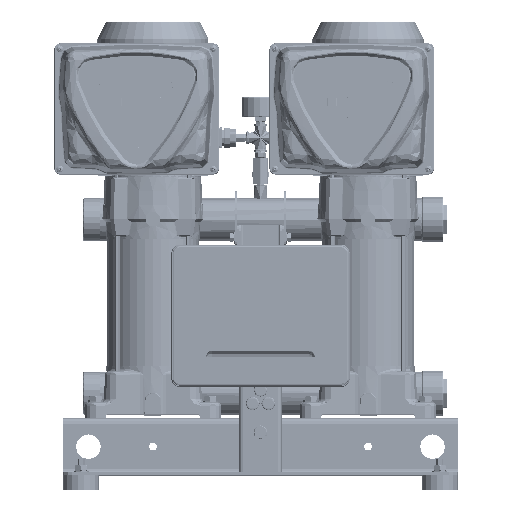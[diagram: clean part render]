
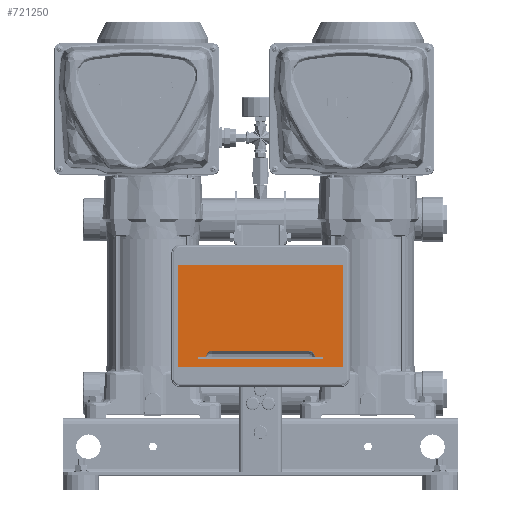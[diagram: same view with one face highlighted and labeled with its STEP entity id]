
A CAD part, top view. The second image highlights one B-rep face of the part: STEP entity #721250.
In plain terms, the highlighted planar face has unit normal (0, 0, 1).
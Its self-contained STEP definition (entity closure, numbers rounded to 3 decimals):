
#717857=DIRECTION('',(1.,0.,0.));
#717858=VECTOR('',#717857,231.);
#717859=CARTESIAN_POINT('',(-115.5,-71.5,112.5));
#717860=LINE('',#717859,#717858);
#717864=DIRECTION('',(0.,-1.,0.));
#717865=VECTOR('',#717864,143.);
#717866=CARTESIAN_POINT('',(-115.5,71.5,112.5));
#717867=LINE('',#717866,#717865);
#717871=DIRECTION('',(-1.,0.,0.));
#717872=VECTOR('',#717871,231.);
#717873=CARTESIAN_POINT('',(115.5,71.5,112.5));
#717874=LINE('',#717873,#717872);
#717878=DIRECTION('',(0.,1.,0.));
#717879=VECTOR('',#717878,143.);
#717880=CARTESIAN_POINT('',(115.5,-71.5,112.5));
#717881=LINE('',#717880,#717879);
#717885=DIRECTION('',(-1.,0.,0.));
#717886=VECTOR('',#717885,10.);
#717887=CARTESIAN_POINT('',(-75.85,-57.2,112.5));
#717888=LINE('',#717887,#717886);
#717892=CARTESIAN_POINT('',(-85.85,-58.85,112.5));
#717893=DIRECTION('',(0.,0.,1.));
#717894=DIRECTION('',(0.,1.,0.));
#717895=AXIS2_PLACEMENT_3D('',#717892,#717893,#717894);
#717900=DIRECTION('',(1.,0.,0.));
#717901=VECTOR('',#717900,171.7);
#717902=CARTESIAN_POINT('',(-85.85,-60.5,112.5));
#717903=LINE('',#717902,#717901);
#717907=CARTESIAN_POINT('',(85.85,-58.85,112.5));
#717908=DIRECTION('',(0.,0.,1.));
#717909=DIRECTION('',(0.,-1.,0.));
#717910=AXIS2_PLACEMENT_3D('',#717907,#717908,#717909);
#717915=DIRECTION('',(-1.,0.,0.));
#717916=VECTOR('',#717915,10.);
#717917=CARTESIAN_POINT('',(85.85,-57.2,112.5));
#717918=LINE('',#717917,#717916);
#717922=CARTESIAN_POINT('',(67.15,-57.2,112.5));
#717923=DIRECTION('',(0.,0.,-1.));
#717924=DIRECTION('',(0.,1.,0.));
#717925=AXIS2_PLACEMENT_3D('',#717922,#717923,#717924);
#717930=DIRECTION('',(1.,0.,0.));
#717931=VECTOR('',#717930,134.3);
#717932=CARTESIAN_POINT('',(-67.15,-48.5,112.5));
#717933=LINE('',#717932,#717931);
#717937=CARTESIAN_POINT('',(-67.15,-57.2,112.5));
#717938=DIRECTION('',(0.,0.,-1.));
#717939=DIRECTION('',(-1.,0.,0.));
#717940=AXIS2_PLACEMENT_3D('',#717937,#717938,#717939);
#718638=CARTESIAN_POINT('',(-115.5,-71.5,112.5));
#718639=CARTESIAN_POINT('',(115.5,-71.5,112.5));
#718640=VERTEX_POINT('',#718638);
#718641=VERTEX_POINT('',#718639);
#718642=CARTESIAN_POINT('',(115.5,71.5,112.5));
#718643=VERTEX_POINT('',#718642);
#718644=CARTESIAN_POINT('',(-115.5,71.5,112.5));
#718645=VERTEX_POINT('',#718644);
#718670=CARTESIAN_POINT('',(-85.85,-60.5,112.5));
#718671=CARTESIAN_POINT('',(85.85,-60.5,112.5));
#718672=VERTEX_POINT('',#718670);
#718673=VERTEX_POINT('',#718671);
#718674=CARTESIAN_POINT('',(85.85,-57.2,112.5));
#718675=VERTEX_POINT('',#718674);
#718676=CARTESIAN_POINT('',(-85.85,-57.2,112.5));
#718677=VERTEX_POINT('',#718676);
#718694=CARTESIAN_POINT('',(-75.85,-57.2,112.5));
#718695=CARTESIAN_POINT('',(-67.15,-48.5,112.5));
#718696=VERTEX_POINT('',#718694);
#718697=VERTEX_POINT('',#718695);
#718698=CARTESIAN_POINT('',(67.15,-48.5,112.5));
#718699=VERTEX_POINT('',#718698);
#718700=CARTESIAN_POINT('',(75.85,-57.2,112.5));
#718701=VERTEX_POINT('',#718700);
#721218=CARTESIAN_POINT('',(0.,0.,112.5));
#721219=DIRECTION('',(0.,0.,1.));
#721220=DIRECTION('',(1.,0.,0.));
#721221=AXIS2_PLACEMENT_3D('',#721218,#721219,#721220);
#721222=PLANE('',#721221);
#721223=ORIENTED_EDGE('',*,*,#721196,.F.);
#721225=ORIENTED_EDGE('',*,*,#721224,.F.);
#721227=ORIENTED_EDGE('',*,*,#721226,.F.);
#721229=ORIENTED_EDGE('',*,*,#721228,.F.);
#721230=EDGE_LOOP('',(#721223,#721225,#721227,#721229));
#721231=FACE_OUTER_BOUND('',#721230,.F.);
#721233=ORIENTED_EDGE('',*,*,#721232,.T.);
#721235=ORIENTED_EDGE('',*,*,#721234,.T.);
#721237=ORIENTED_EDGE('',*,*,#721236,.T.);
#721239=ORIENTED_EDGE('',*,*,#721238,.T.);
#721241=ORIENTED_EDGE('',*,*,#721240,.T.);
#721243=ORIENTED_EDGE('',*,*,#721242,.F.);
#721245=ORIENTED_EDGE('',*,*,#721244,.F.);
#721247=ORIENTED_EDGE('',*,*,#721246,.F.);
#721248=EDGE_LOOP('',(#721233,#721235,#721237,#721239,#721241,#721243,#721245,
#721247));
#721249=FACE_BOUND('',#721248,.F.);
#717896=CIRCLE('',#717895,1.65);
#717911=CIRCLE('',#717910,1.65);
#717926=CIRCLE('',#717925,8.7);
#717941=CIRCLE('',#717940,8.7);
#721196=EDGE_CURVE('',#718640,#718641,#717860,.T.);
#721224=EDGE_CURVE('',#718645,#718640,#717867,.T.);
#721226=EDGE_CURVE('',#718643,#718645,#717874,.T.);
#721228=EDGE_CURVE('',#718641,#718643,#717881,.T.);
#721232=EDGE_CURVE('',#718696,#718677,#717888,.T.);
#721234=EDGE_CURVE('',#718677,#718672,#717896,.T.);
#721236=EDGE_CURVE('',#718672,#718673,#717903,.T.);
#721238=EDGE_CURVE('',#718673,#718675,#717911,.T.);
#721240=EDGE_CURVE('',#718675,#718701,#717918,.T.);
#721242=EDGE_CURVE('',#718699,#718701,#717926,.T.);
#721244=EDGE_CURVE('',#718697,#718699,#717933,.T.);
#721246=EDGE_CURVE('',#718696,#718697,#717941,.T.);
#721250=ADVANCED_FACE('',(#721231,#721249),#721222,.T.);
